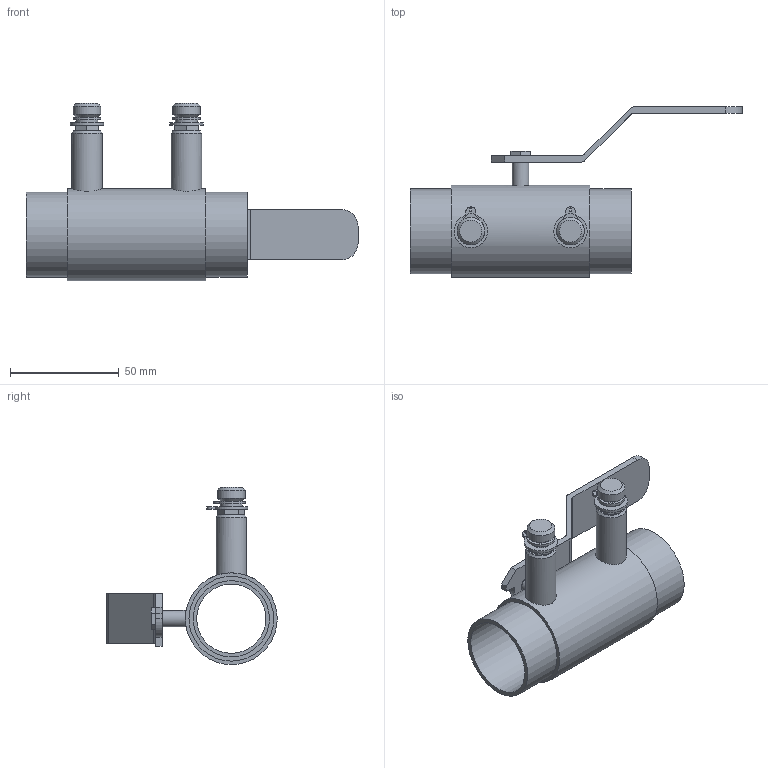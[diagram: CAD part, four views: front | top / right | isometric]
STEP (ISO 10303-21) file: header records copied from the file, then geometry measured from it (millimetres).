
FILE_DESCRIPTION(/* description */ ('VIC BALANCING VALVE SERIES 78BL (SWT)','CAx-IF Rec.Pracs.---Representation and Presentation of Product Manufacturing Information (PMI)---4.0---2014-10-13'),/* implementation_level */ '2;1');
FILE_NAME(/* name */ 'C:\Users\kkamble\Desktop\New folder (12)\New folder\step\Victaulic-IPS-TA Balancing Ball Valve Series 78BL (SWT)\Victaulic-IPS-TA Balancing Ball Valve Series 78BL (SWT)_1.25 (32).stp',/* time_stamp */ '2020-10-13T18:39:13+05:00',/* author */ ('kkamble'),/* organization */ ('Victaulic'),/* preprocessor_version */ 'ST-DEVELOPER v17.2',/* originating_system */ 'Autodesk Inventor 2019',/* authorisation */ '');
FILE_SCHEMA (('AP242_MANAGED_MODEL_BASED_3D_ENGINEERING_MIM_LF { 1 0 10303 442 1 1 4 }'));
Length unit declared in the file: inch
Products named in the file (1): 78BL-01.25
Bounding box: 152.4 x 78.23 x 81.41 mm (x, y, z)
Volume: 64189.8 mm3; surface area: 35545.6 mm2
Topology: 1 solids, 1 shells, 117 faces, 307 edges, 195 vertices
Faces by surface type: plane 78, cylinder 33, cone 6
Full cylindrical faces by diameter (mm): 4.318 x1, 7.62 x1, 10.16 x2, 12.7 x2, 13.97 x2, 31.75 x1, 35.001 x2, 38.887 x2, 42.164 x1
Entity records: 4011 total; most frequent: CARTESIAN_POINT 739, DIRECTION 666, ORIENTED_EDGE 614, EDGE_CURVE 307, AXIS2_PLACEMENT_3D 234, LINE 198, VECTOR 198, VERTEX_POINT 195
